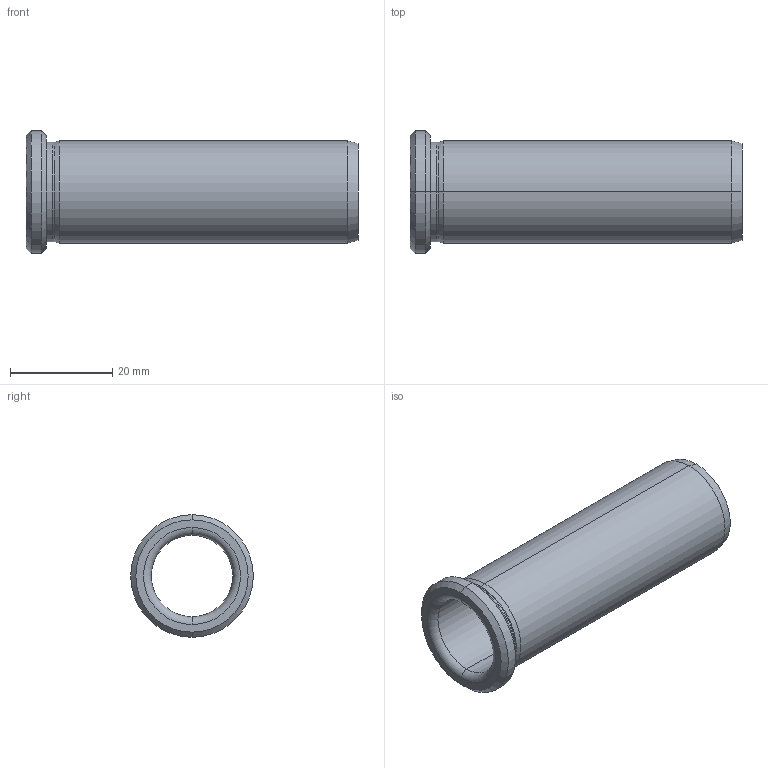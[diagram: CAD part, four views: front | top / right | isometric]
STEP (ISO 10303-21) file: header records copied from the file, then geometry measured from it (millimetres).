
FILE_DESCRIPTION (( 'STEP AP214' ), '1' );
FILE_NAME ('BRCVBG-16X65.STEP', '2020-07-21T12:04:46', ( '' ), ( '' ), 'SwSTEP 2.0', 'SolidWorks 2018', '' );
FILE_SCHEMA (( 'AUTOMOTIVE_DESIGN' ));
Length unit declared in the file: millimetre
Products named in the file (1): BRCVBG-16X65
Bounding box: 65 x 24 x 24 mm (x, y, z)
Volume: 7849.3 mm3; surface area: 7758.3 mm2
Topology: 1 solids, 1 shells, 26 faces, 52 edges, 30 vertices
Faces by surface type: cylinder 10, cone 8, torus 4, plane 4
Entity records: 716 total; most frequent: DIRECTION 140, CARTESIAN_POINT 109, ORIENTED_EDGE 104, AXIS2_PLACEMENT_3D 61, EDGE_CURVE 52, CIRCLE 34, EDGE_LOOP 30, VERTEX_POINT 30
